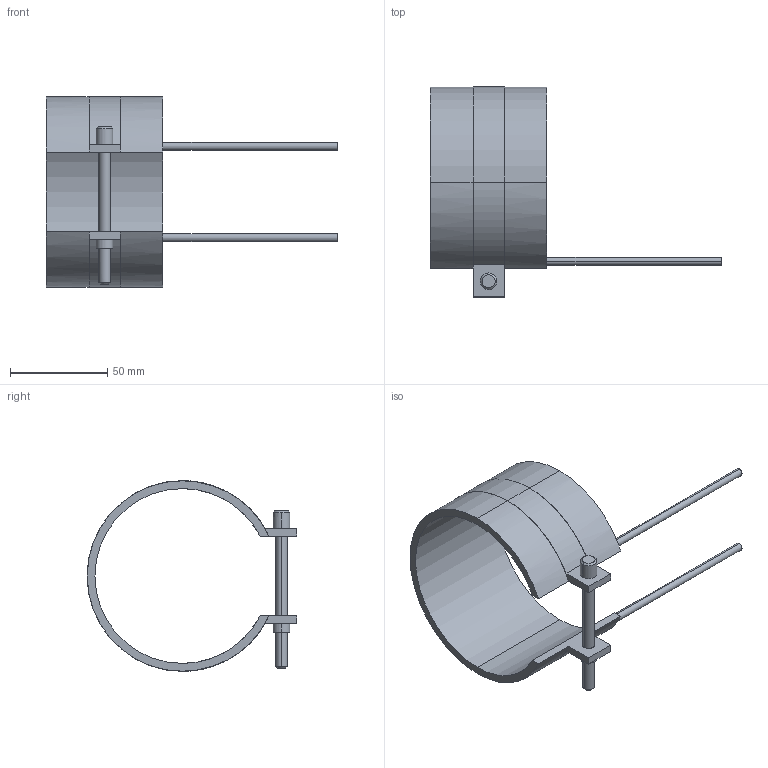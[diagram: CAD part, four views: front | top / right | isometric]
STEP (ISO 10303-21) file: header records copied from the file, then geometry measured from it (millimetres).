
FILE_DESCRIPTION(('CATIA V5 STEP Exchange'),'2;1');
FILE_NAME('C:\Users\Utente\Desktop\IO LAVORO\3D X SITO CF\X SITO\PLASTICA\RF2\14090060.stp','2021-04-06T16:09:01+00:00',('none'),('none'),'CATIA Version 5 Release 20 GA (IN-10)','CATIA V5 STEP AP203','none');
FILE_SCHEMA(('CONFIG_CONTROL_DESIGN'));
Length unit declared in the file: millimetre
Products named in the file (1): 14090060
Bounding box: 150 x 108.1 x 98.2 mm (x, y, z)
Volume: 67791.4 mm3; surface area: 37849.2 mm2
Topology: 1 solids, 1 shells, 45 faces, 116 edges, 76 vertices
Faces by surface type: cylinder 24, plane 17, cone 4
Entity records: 1412 total; most frequent: CARTESIAN_POINT 288, ORIENTED_EDGE 232, DIRECTION 195, EDGE_CURVE 116, AXIS2_PLACEMENT_3D 103, VERTEX_POINT 76, CIRCLE 61, VECTOR 52
